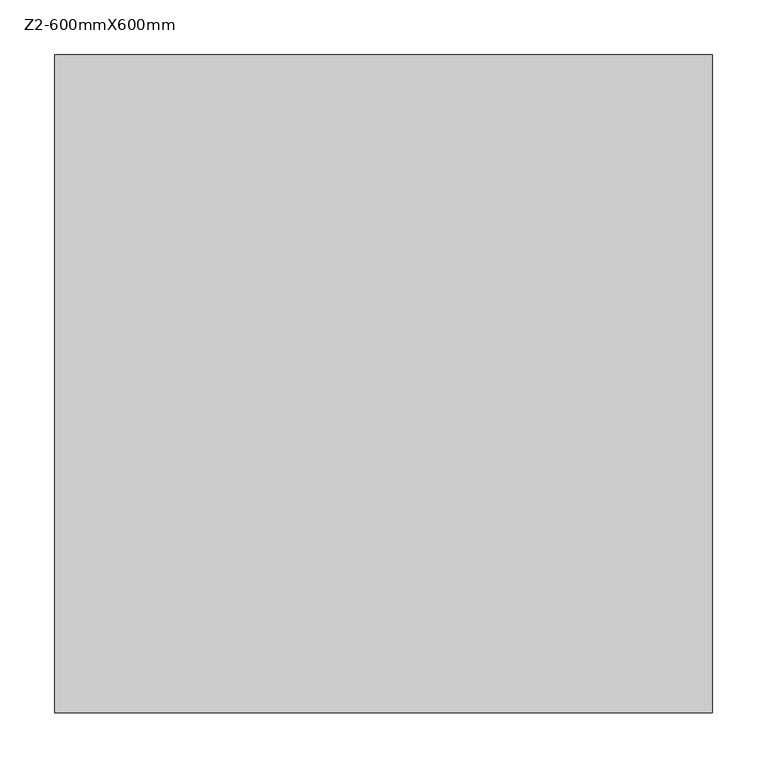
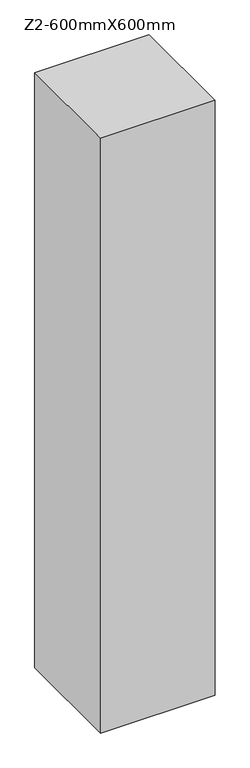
"""IFC4 building model written with IfcOpenShell, lengths in millimetres: column geometry, 混凝土 - 矩形 - 柱 : Z2-600mmX600mm."""

from ifc_helpers import new_model, si_unit, frame, origin, place, context, project, spatial, polyline, outline, extrude, source, transform, mapped, element, save


def z2_600mmx600mm_110e3af3(model_context):
    return source(origin(), model_context, "Body", "SweptSolid", [
        extrude(outline(polyline([(300.0, -300.0), (-300.0, -300.0), (-300.0, 300.0), (300.0, 300.0), (300.0, -300.0)])), frame((0.0, 0.0, 7200.0), z_axis=(0.0, 0.0, 1.0), x_axis=(1.0, 0.0, 0.0)), (0.0, 0.0, 1.0), 3300.0),
    ])


if __name__ == "__main__":
    model = new_model("IFC4")
    model_context = context("Model", 3, world=origin())
    ifc_project = project(units=[si_unit("LENGTHUNIT", "METRE", prefix="MILLI")], contexts=[model_context])
    site = spatial("IfcSite", under=ifc_project)
    building = spatial("IfcBuilding", under=site)
    placement = place(None, origin())
    z2_600mmx600mm_shape = z2_600mmx600mm_110e3af3(model_context)
    element("IfcColumn", 1, ObjectType="混凝土 - 矩形 - 柱 : Z2-600mmX600mm", at=placement, inside=building, context=model_context, shape_type="MappedRepresentation", body=[
        mapped(z2_600mmx600mm_shape, transform((0.0, 0.0, 0.0), x_axis=(1.0, 0.0, 0.0), y_axis=(0.0, 1.0, 0.0), z_axis=(0.0, 0.0, 1.0))),
    ])
    save(model, "model.ifc")
